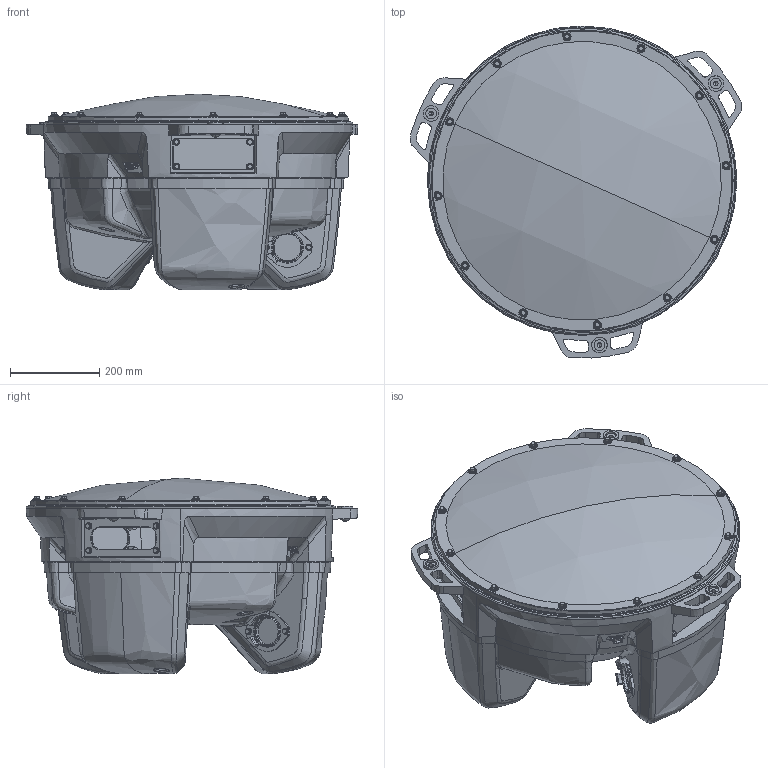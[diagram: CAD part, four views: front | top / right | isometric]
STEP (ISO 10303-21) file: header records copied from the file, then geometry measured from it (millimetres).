
FILE_DESCRIPTION (( 'STEP AP214' ), '1' );
FILE_NAME ('IRB360_X-1130-STD-3D_rev03_BASE_CAD.STEP', '2024-01-15T12:24:48', ( '' ), ( '' ), 'SwSTEP 2.0', 'SolidWorks 2022', '' );
FILE_SCHEMA (( 'AUTOMOTIVE_DESIGN' ));
Length unit declared in the file: millimetre
Products named in the file (3): IRB360_X-1130-STD-3D_rev03_BASE_CAD; IRB360_X-1130-STD-3D_rev03_BASE_CAD 1
Assembly tree (2 placements, depth 2):
  IRB360_X-1130-STD-3D_rev03_BASE_CAD
    IRB360_X-1130-STD-3D_rev03_BASE_CAD 1
    IRB360_X-1130-STD-3D_rev03_BASE_CAD
Bounding box: 742.55 x 743.32 x 437.99 mm (x, y, z)
Volume: 62047161.2 mm3; surface area: 3654549 mm2
Topology: 70 solids, 70 shells, 2894 faces, 6830 edges, 4134 vertices
Faces by surface type: cone 750, plane 707, bspline 629, cylinder 550, torus 250, sphere 8
Entity records: 147820 total; most frequent: CARTESIAN_POINT 83719, ORIENTED_EDGE 13542, DIRECTION 11754, EDGE_CURVE 6771, AXIS2_PLACEMENT_3D 4951, VERTEX_POINT 4134, EDGE_LOOP 3145, FACE_OUTER_BOUND 2894
